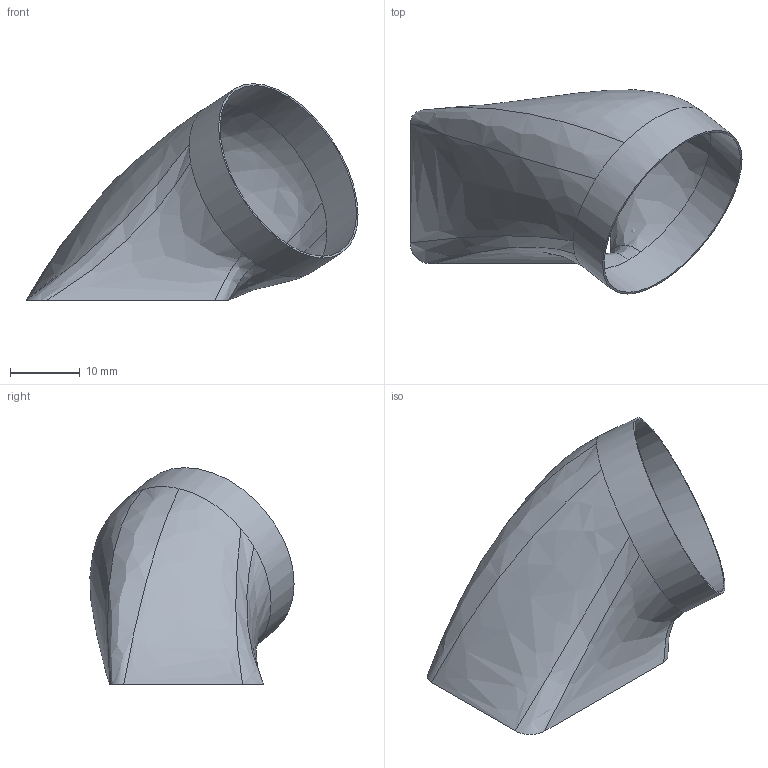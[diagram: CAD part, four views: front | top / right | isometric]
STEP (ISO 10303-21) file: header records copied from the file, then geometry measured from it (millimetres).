
FILE_DESCRIPTION((''),'2;1');
FILE_NAME('F:\Downloads\Versuch 3-WH.stp','2011-05-15T22:52:45',('Administrator WH'),(''),'Autodesk Inventor 2012','Autodesk Inventor 2012','');
FILE_SCHEMA(('AUTOMOTIVE_DESIGN { 1 0 10303 214 1 1 1 1 }'));
Length unit declared in the file: millimetre
Products named in the file (1): Versuch 3-WH
Bounding box: 47.48 x 29.2 x 31 mm (x, y, z)
Volume: 781.9 mm3; surface area: 5280.7 mm2
Topology: 1 solids, 1 shells, 20 faces, 66 edges, 48 vertices
Faces by surface type: bspline 16, cylinder 2, plane 2
Full cylindrical faces by diameter (mm): 27.4 x1, 28 x1
Entity records: 1574 total; most frequent: CARTESIAN_POINT 1033, ORIENTED_EDGE 128, DIRECTION 78, EDGE_CURVE 64, VERTEX_POINT 48, AXIS2_PLACEMENT_3D 37, CIRCLE 32, EDGE_LOOP 24
